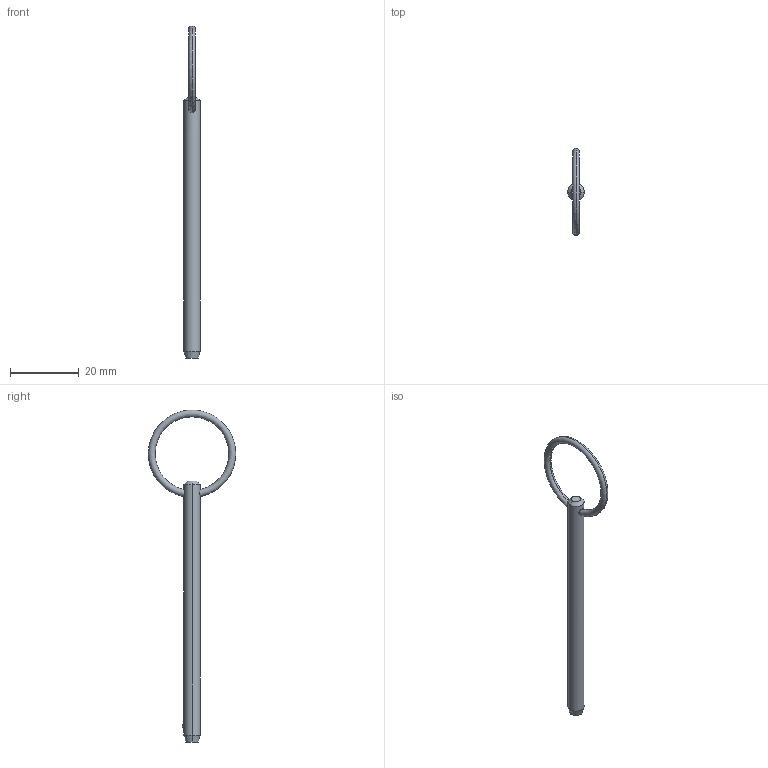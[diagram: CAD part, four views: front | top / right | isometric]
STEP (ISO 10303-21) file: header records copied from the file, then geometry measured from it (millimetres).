
FILE_DESCRIPTION (( 'STEP AP203' ), '1' );
FILE_NAME ('P1250.018-260.step', '2019-07-29T19:34:30', ( '' ), ( '' ), 'SwSTEP 2.0', 'SolidWorks 2017', '' );
FILE_SCHEMA (( 'CONFIG_CONTROL_DESIGN' ));
Length unit declared in the file: millimetre
Products named in the file (1): P1250.018-260
Bounding box: 4.76 x 25.4 x 96.48 mm (x, y, z)
Volume: 1551.8 mm3; surface area: 1577 mm2
Topology: 1 solids, 1 shells, 12 faces, 28 edges, 17 vertices
Faces by surface type: cone 4, torus 2, sphere 2, cylinder 2, plane 2
Entity records: 471 total; most frequent: CARTESIAN_POINT 138, DIRECTION 56, ORIENTED_EDGE 48, AXIS2_PLACEMENT_3D 25, EDGE_CURVE 24, EDGE_LOOP 15, VERTEX_POINT 15, FACE_OUTER_BOUND 12
